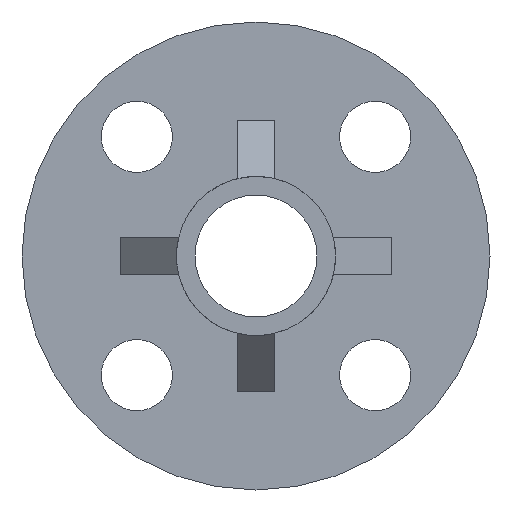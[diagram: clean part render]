
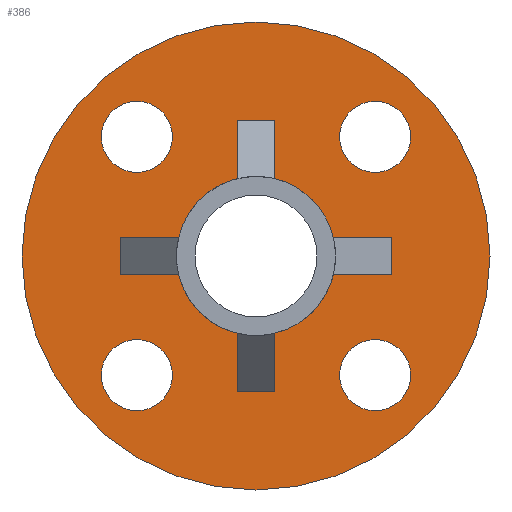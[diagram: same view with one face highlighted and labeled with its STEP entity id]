
A CAD part, front view. The second image highlights one B-rep face of the part: STEP entity #386.
In plain terms, the highlighted planar face has unit normal (0, -1, 0).
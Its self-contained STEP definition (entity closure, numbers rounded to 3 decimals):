
#21=FACE_BOUND('',#92,.T.);
#22=FACE_BOUND('',#93,.T.);
#23=FACE_BOUND('',#94,.T.);
#24=FACE_BOUND('',#95,.T.);
#25=FACE_BOUND('',#96,.T.);
#41=CIRCLE('',#415,62.5);
#42=CIRCLE('',#416,9.5);
#43=CIRCLE('',#417,9.5);
#44=CIRCLE('',#418,9.5);
#45=CIRCLE('',#419,9.5);
#46=CIRCLE('',#420,21.25);
#47=CIRCLE('',#421,21.25);
#48=CIRCLE('',#422,21.25);
#49=CIRCLE('',#423,21.25);
#71=FACE_OUTER_BOUND('',#91,.T.);
#91=EDGE_LOOP('',(#294));
#92=EDGE_LOOP('',(#295));
#93=EDGE_LOOP('',(#296));
#94=EDGE_LOOP('',(#297));
#95=EDGE_LOOP('',(#298));
#96=EDGE_LOOP('',(#299,#300,#301,#302,#303,#304,#305,#306,#307,#308,#309,
#310,#311,#312,#313,#314));
#124=LINE('',#568,#152);
#126=LINE('',#574,#154);
#128=LINE('',#578,#156);
#131=LINE('',#585,#159);
#133=LINE('',#591,#161);
#135=LINE('',#595,#163);
#138=LINE('',#602,#166);
#140=LINE('',#608,#168);
#142=LINE('',#612,#170);
#143=LINE('',#627,#171);
#144=LINE('',#629,#172);
#145=LINE('',#631,#173);
#152=VECTOR('',#451,15.597);
#154=VECTOR('',#457,10.);
#156=VECTOR('',#461,15.597);
#159=VECTOR('',#466,15.597);
#161=VECTOR('',#472,10.);
#163=VECTOR('',#476,15.597);
#166=VECTOR('',#481,15.597);
#168=VECTOR('',#487,10.);
#170=VECTOR('',#491,15.597);
#171=VECTOR('',#506,15.597);
#172=VECTOR('',#507,10.);
#173=VECTOR('',#508,15.597);
#179=VERTEX_POINT('',#564);
#180=VERTEX_POINT('',#566);
#182=VERTEX_POINT('',#572);
#183=VERTEX_POINT('',#576);
#185=VERTEX_POINT('',#581);
#186=VERTEX_POINT('',#583);
#188=VERTEX_POINT('',#589);
#189=VERTEX_POINT('',#593);
#191=VERTEX_POINT('',#598);
#192=VERTEX_POINT('',#600);
#194=VERTEX_POINT('',#606);
#195=VERTEX_POINT('',#610);
#196=VERTEX_POINT('',#614);
#197=VERTEX_POINT('',#616);
#198=VERTEX_POINT('',#618);
#199=VERTEX_POINT('',#620);
#200=VERTEX_POINT('',#622);
#201=VERTEX_POINT('',#624);
#202=VERTEX_POINT('',#626);
#203=VERTEX_POINT('',#628);
#204=VERTEX_POINT('',#630);
#217=EDGE_CURVE('',#179,#180,#124,.T.);
#220=EDGE_CURVE('',#180,#182,#126,.T.);
#222=EDGE_CURVE('',#182,#183,#128,.T.);
#225=EDGE_CURVE('',#185,#186,#131,.T.);
#228=EDGE_CURVE('',#186,#188,#133,.T.);
#230=EDGE_CURVE('',#188,#189,#135,.T.);
#233=EDGE_CURVE('',#191,#192,#138,.T.);
#236=EDGE_CURVE('',#192,#194,#140,.T.);
#238=EDGE_CURVE('',#194,#195,#142,.T.);
#239=EDGE_CURVE('',#196,#196,#41,.T.);
#240=EDGE_CURVE('',#197,#197,#42,.T.);
#241=EDGE_CURVE('',#198,#198,#43,.T.);
#242=EDGE_CURVE('',#199,#199,#44,.T.);
#243=EDGE_CURVE('',#200,#200,#45,.T.);
#244=EDGE_CURVE('',#183,#201,#46,.T.);
#245=EDGE_CURVE('',#201,#202,#143,.T.);
#246=EDGE_CURVE('',#202,#203,#144,.T.);
#247=EDGE_CURVE('',#203,#204,#145,.T.);
#248=EDGE_CURVE('',#204,#191,#47,.T.);
#249=EDGE_CURVE('',#195,#185,#48,.T.);
#250=EDGE_CURVE('',#189,#179,#49,.T.);
#294=ORIENTED_EDGE('',*,*,#239,.T.);
#295=ORIENTED_EDGE('',*,*,#240,.T.);
#296=ORIENTED_EDGE('',*,*,#241,.T.);
#297=ORIENTED_EDGE('',*,*,#242,.T.);
#298=ORIENTED_EDGE('',*,*,#243,.T.);
#299=ORIENTED_EDGE('',*,*,#217,.T.);
#300=ORIENTED_EDGE('',*,*,#220,.T.);
#301=ORIENTED_EDGE('',*,*,#222,.T.);
#302=ORIENTED_EDGE('',*,*,#244,.T.);
#303=ORIENTED_EDGE('',*,*,#245,.T.);
#304=ORIENTED_EDGE('',*,*,#246,.T.);
#305=ORIENTED_EDGE('',*,*,#247,.T.);
#306=ORIENTED_EDGE('',*,*,#248,.T.);
#307=ORIENTED_EDGE('',*,*,#233,.T.);
#308=ORIENTED_EDGE('',*,*,#236,.T.);
#309=ORIENTED_EDGE('',*,*,#238,.T.);
#310=ORIENTED_EDGE('',*,*,#249,.T.);
#311=ORIENTED_EDGE('',*,*,#225,.T.);
#312=ORIENTED_EDGE('',*,*,#228,.T.);
#313=ORIENTED_EDGE('',*,*,#230,.T.);
#314=ORIENTED_EDGE('',*,*,#250,.T.);
#371=PLANE('',#414);
#386=ADVANCED_FACE('',(#71,#21,#22,#23,#24,#25),#371,.F.);
#414=AXIS2_PLACEMENT_3D('',#613,#492,#493);
#415=AXIS2_PLACEMENT_3D('',#615,#494,#495);
#416=AXIS2_PLACEMENT_3D('',#617,#496,#497);
#417=AXIS2_PLACEMENT_3D('',#619,#498,#499);
#418=AXIS2_PLACEMENT_3D('',#621,#500,#501);
#419=AXIS2_PLACEMENT_3D('',#623,#502,#503);
#420=AXIS2_PLACEMENT_3D('',#625,#504,#505);
#421=AXIS2_PLACEMENT_3D('',#632,#509,#510);
#422=AXIS2_PLACEMENT_3D('',#633,#511,#512);
#423=AXIS2_PLACEMENT_3D('',#634,#513,#514);
#451=DIRECTION('',(0.,0.,1.));
#457=DIRECTION('',(1.,0.,0.));
#461=DIRECTION('',(0.,0.,-1.));
#466=DIRECTION('',(-1.,0.,0.));
#472=DIRECTION('',(0.,0.,1.));
#476=DIRECTION('',(1.,0.,0.));
#481=DIRECTION('',(0.,0.,-1.));
#487=DIRECTION('',(-1.,0.,0.));
#491=DIRECTION('',(0.,0.,1.));
#492=DIRECTION('center_axis',(0.,1.,0.));
#493=DIRECTION('ref_axis',(0.,0.,1.));
#494=DIRECTION('center_axis',(0.,-1.,0.));
#495=DIRECTION('ref_axis',(1.,0.,0.));
#496=DIRECTION('center_axis',(0.,1.,0.));
#497=DIRECTION('ref_axis',(1.,0.,0.));
#498=DIRECTION('center_axis',(0.,1.,0.));
#499=DIRECTION('ref_axis',(1.,0.,0.));
#500=DIRECTION('center_axis',(0.,1.,0.));
#501=DIRECTION('ref_axis',(1.,0.,0.));
#502=DIRECTION('center_axis',(0.,1.,0.));
#503=DIRECTION('ref_axis',(1.,0.,0.));
#504=DIRECTION('center_axis',(0.,1.,0.));
#505=DIRECTION('ref_axis',(-1.,0.,0.));
#506=DIRECTION('',(1.,0.,0.));
#507=DIRECTION('',(0.,0.,-1.));
#508=DIRECTION('',(-1.,0.,0.));
#509=DIRECTION('center_axis',(0.,1.,0.));
#510=DIRECTION('ref_axis',(-1.,0.,0.));
#511=DIRECTION('center_axis',(0.,1.,0.));
#512=DIRECTION('ref_axis',(-1.,0.,0.));
#513=DIRECTION('center_axis',(0.,1.,0.));
#514=DIRECTION('ref_axis',(-1.,0.,0.));
#564=CARTESIAN_POINT('',(-5.,-15.,20.653));
#566=CARTESIAN_POINT('',(-5.,-15.,36.25));
#568=CARTESIAN_POINT('',(-5.,-15.,12.473));
#572=CARTESIAN_POINT('',(5.,-15.,36.25));
#574=CARTESIAN_POINT('',(0.,-15.,36.25));
#576=CARTESIAN_POINT('',(5.,-15.,20.653));
#578=CARTESIAN_POINT('',(5.,-15.,12.473));
#581=CARTESIAN_POINT('',(-20.653,-15.,-5.));
#583=CARTESIAN_POINT('',(-36.25,-15.,-5.));
#585=CARTESIAN_POINT('',(-12.473,-15.,-5.));
#589=CARTESIAN_POINT('',(-36.25,-15.,5.));
#591=CARTESIAN_POINT('',(-36.25,-15.,0.));
#593=CARTESIAN_POINT('',(-20.653,-15.,5.));
#595=CARTESIAN_POINT('',(-12.473,-15.,5.));
#598=CARTESIAN_POINT('',(5.,-15.,-20.653));
#600=CARTESIAN_POINT('',(5.,-15.,-36.25));
#602=CARTESIAN_POINT('',(5.,-15.,-12.473));
#606=CARTESIAN_POINT('',(-5.,-15.,-36.25));
#608=CARTESIAN_POINT('',(0.,-15.,-36.25));
#610=CARTESIAN_POINT('',(-5.,-15.,-20.653));
#612=CARTESIAN_POINT('',(-5.,-15.,-12.473));
#613=CARTESIAN_POINT('Origin',(0.,-15.,0.));
#614=CARTESIAN_POINT('',(-62.5,-15.,0.));
#615=CARTESIAN_POINT('Origin',(0.,-15.,0.));
#616=CARTESIAN_POINT('',(41.32,-15.,31.82));
#617=CARTESIAN_POINT('Origin',(31.82,-15.,31.82));
#618=CARTESIAN_POINT('',(-22.32,-15.,-31.82));
#619=CARTESIAN_POINT('Origin',(-31.82,-15.,-31.82));
#620=CARTESIAN_POINT('',(-22.32,-15.,31.82));
#621=CARTESIAN_POINT('Origin',(-31.82,-15.,31.82));
#622=CARTESIAN_POINT('',(41.32,-15.,-31.82));
#623=CARTESIAN_POINT('Origin',(31.82,-15.,-31.82));
#624=CARTESIAN_POINT('',(20.653,-15.,5.));
#625=CARTESIAN_POINT('Origin',(0.,-15.,0.));
#626=CARTESIAN_POINT('',(36.25,-15.,5.));
#627=CARTESIAN_POINT('',(12.473,-15.,5.));
#628=CARTESIAN_POINT('',(36.25,-15.,-5.));
#629=CARTESIAN_POINT('',(36.25,-15.,0.));
#630=CARTESIAN_POINT('',(20.653,-15.,-5.));
#631=CARTESIAN_POINT('',(12.473,-15.,-5.));
#632=CARTESIAN_POINT('Origin',(0.,-15.,0.));
#633=CARTESIAN_POINT('Origin',(0.,-15.,0.));
#634=CARTESIAN_POINT('Origin',(0.,-15.,0.));
